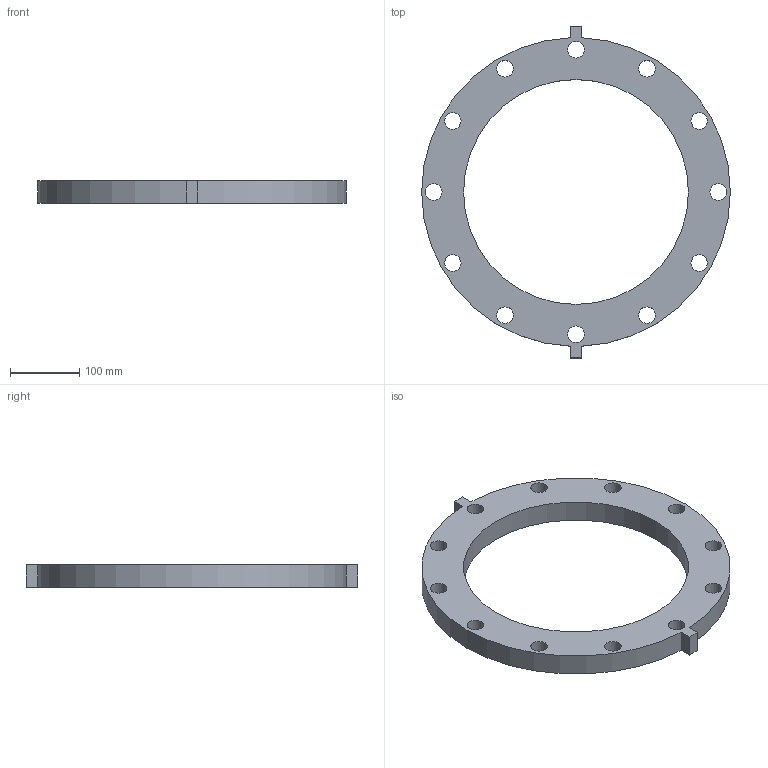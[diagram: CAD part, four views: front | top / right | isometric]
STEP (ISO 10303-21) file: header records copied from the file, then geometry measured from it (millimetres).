
FILE_DESCRIPTION(/* description */ ('VIC FLANGE ADAPTER STYLE 741 PN16 Flanges','CAx-IF Rec.Pracs.---Representation and Presentation of Product Manufacturing Information (PMI)---4.0---2014-10-13'),/* implementation_level */ '2;1');
FILE_NAME(/* name */ 'C:\Users\kkamble\AppData\Roaming\Autodesk\ApplicationPlugins\Back Up\Victaulic_IPS_Flange Adapter_PN16_Style 741 (OGSxFLG)\Victaulic_IPS_Flange Adapter_PN16_Style 741 (OGSxFLG)_12 (300).stp',/* time_stamp */ '2020-07-24T08:16:59+06:00',/* author */ ('jheald'),/* organization */ ('Victaulic'),/* preprocessor_version */ 'ST-DEVELOPER v17.2',/* originating_system */ 'Autodesk Inventor 2019',/* authorisation */ '');
FILE_SCHEMA (('AP242_MANAGED_MODEL_BASED_3D_ENGINEERING_MIM_LF { 1 0 10303 442 1 1 4 }'));
Length unit declared in the file: inch
Products named in the file (1): 741-12.0
Bounding box: 444.5 x 478.03 x 31.75 mm (x, y, z)
Volume: 2158411.1 mm3; surface area: 243328.4 mm2
Topology: 1 solids, 1 shells, 23 faces, 63 edges, 42 vertices
Faces by surface type: cylinder 15, plane 8
Full cylindrical faces by diameter (mm): 23.876 x12, 323.85 x1
Entity records: 863 total; most frequent: DIRECTION 141, CARTESIAN_POINT 129, ORIENTED_EDGE 126, EDGE_CURVE 63, AXIS2_PLACEMENT_3D 54, EDGE_LOOP 49, VERTEX_POINT 42, LINE 33
